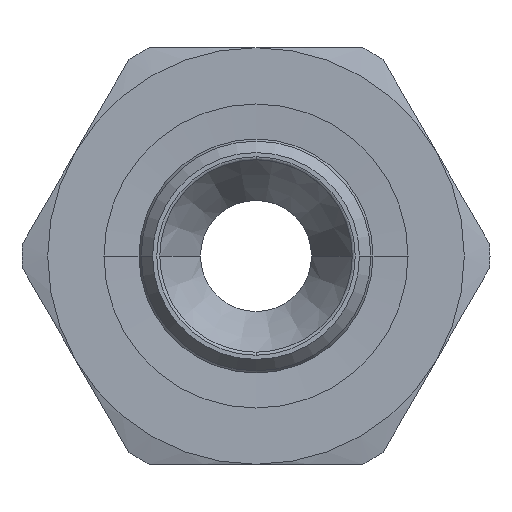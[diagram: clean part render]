
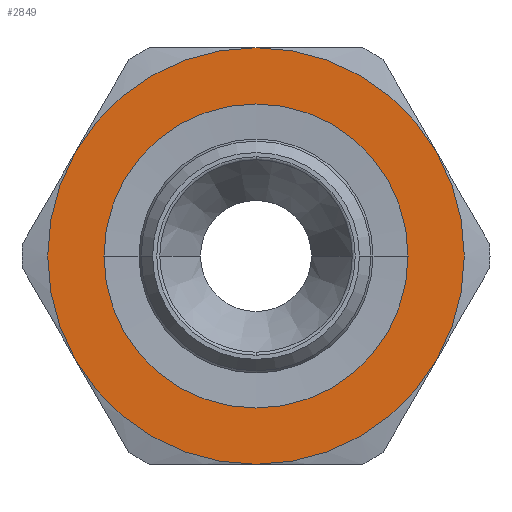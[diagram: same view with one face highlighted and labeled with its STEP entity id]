
A CAD part, left-side view. The second image highlights one B-rep face of the part: STEP entity #2849.
In plain terms, the highlighted planar face has unit normal (-1, 0, 0) as drawn and (0, 0, 1) by its records, which use the part's own axes.
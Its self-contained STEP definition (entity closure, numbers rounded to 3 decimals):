
#1176=CARTESIAN_POINT('',(0.,-10.95,3.5));
#1177=VERTEX_POINT('',#1176);
#1193=CARTESIAN_POINT('',(0.,10.95,3.5));
#1194=VERTEX_POINT('',#1193);
#1201=CARTESIAN_POINT('',(0.,0.,3.5));
#1202=DIRECTION('',(0.0,0.0,-1.0));
#1203=DIRECTION('',(0.0,-1.0,0.0));
#1204=AXIS2_PLACEMENT_3D('',#1201,#1202,#1203);
#1205=CIRCLE('',#1204,10.95);
#1206=EDGE_CURVE('',#1177,#1194,#1205,.T.);
#1663=CARTESIAN_POINT('',(0.,0.,3.5));
#1664=DIRECTION('',(0.0,0.0,-1.0));
#1665=DIRECTION('',(0.0,-1.0,0.0));
#1666=AXIS2_PLACEMENT_3D('',#1663,#1664,#1665);
#1667=CIRCLE('',#1666,10.95);
#1668=EDGE_CURVE('',#1194,#1177,#1667,.T.);
#2222=CARTESIAN_POINT('',(7.5,-12.99,3.5));
#2223=VERTEX_POINT('',#2222);
#2237=CARTESIAN_POINT('',(-7.5,-12.99,3.5));
#2238=VERTEX_POINT('',#2237);
#2239=CARTESIAN_POINT('',(0.,0.0,3.5));
#2240=DIRECTION('',(0.0,0.0,1.0));
#2241=DIRECTION('',(1.0,0.0,0.0));
#2242=AXIS2_PLACEMENT_3D('',#2239,#2240,#2241);
#2243=CIRCLE('',#2242,15.);
#2244=EDGE_CURVE('',#2238,#2223,#2243,.T.);
#2322=CARTESIAN_POINT('',(-15.,0.,3.5));
#2323=VERTEX_POINT('',#2322);
#2324=CARTESIAN_POINT('',(0.,0.0,3.5));
#2325=DIRECTION('',(0.0,0.0,1.0));
#2326=DIRECTION('',(1.0,0.0,0.0));
#2327=AXIS2_PLACEMENT_3D('',#2324,#2325,#2326);
#2328=CIRCLE('',#2327,15.);
#2329=EDGE_CURVE('',#2323,#2238,#2328,.T.);
#2406=CARTESIAN_POINT('',(-7.5,12.99,3.5));
#2407=VERTEX_POINT('',#2406);
#2408=CARTESIAN_POINT('',(0.,0.0,3.5));
#2409=DIRECTION('',(0.0,0.0,1.0));
#2410=DIRECTION('',(1.0,0.0,0.0));
#2411=AXIS2_PLACEMENT_3D('',#2408,#2409,#2410);
#2412=CIRCLE('',#2411,15.);
#2413=EDGE_CURVE('',#2407,#2323,#2412,.T.);
#2490=CARTESIAN_POINT('',(7.5,12.99,3.5));
#2491=VERTEX_POINT('',#2490);
#2492=CARTESIAN_POINT('',(0.,0.0,3.5));
#2493=DIRECTION('',(0.0,0.0,1.0));
#2494=DIRECTION('',(1.0,0.0,0.0));
#2495=AXIS2_PLACEMENT_3D('',#2492,#2493,#2494);
#2496=CIRCLE('',#2495,15.);
#2497=EDGE_CURVE('',#2491,#2407,#2496,.T.);
#2575=CARTESIAN_POINT('',(15.0,0.0,3.5));
#2576=VERTEX_POINT('',#2575);
#2577=CARTESIAN_POINT('',(0.,0.0,3.5));
#2578=DIRECTION('',(0.0,0.0,1.0));
#2579=DIRECTION('',(1.0,0.0,0.0));
#2580=AXIS2_PLACEMENT_3D('',#2577,#2578,#2579);
#2581=CIRCLE('',#2580,15.);
#2582=EDGE_CURVE('',#2576,#2491,#2581,.T.);
#2659=CARTESIAN_POINT('',(0.,0.0,3.5));
#2660=DIRECTION('',(0.0,0.0,1.0));
#2661=DIRECTION('',(1.0,0.0,0.0));
#2662=AXIS2_PLACEMENT_3D('',#2659,#2660,#2661);
#2663=CIRCLE('',#2662,15.);
#2664=EDGE_CURVE('',#2223,#2576,#2663,.T.);
#2832=CARTESIAN_POINT('',(0.0,0.,3.5));
#2833=DIRECTION('',(0.0,0.0,1.0));
#2834=DIRECTION('',(1.0,0.0,0.0));
#2835=AXIS2_PLACEMENT_3D('',#2832,#2833,#2834);
#2836=PLANE('',#2835);
#2837=ORIENTED_EDGE('',*,*,#2664,.T.);
#2838=ORIENTED_EDGE('',*,*,#2582,.T.);
#2839=ORIENTED_EDGE('',*,*,#2497,.T.);
#2840=ORIENTED_EDGE('',*,*,#2413,.T.);
#2841=ORIENTED_EDGE('',*,*,#2329,.T.);
#2842=ORIENTED_EDGE('',*,*,#2244,.T.);
#2843=EDGE_LOOP('',(#2837,#2838,#2839,#2840,#2841,#2842));
#2844=FACE_OUTER_BOUND('',#2843,.T.);
#2845=ORIENTED_EDGE('',*,*,#1206,.T.);
#2846=ORIENTED_EDGE('',*,*,#1668,.T.);
#2847=EDGE_LOOP('',(#2845,#2846));
#2848=FACE_BOUND('',#2847,.T.);
#2849=ADVANCED_FACE('',(#2844,#2848),#2836,.T.);
